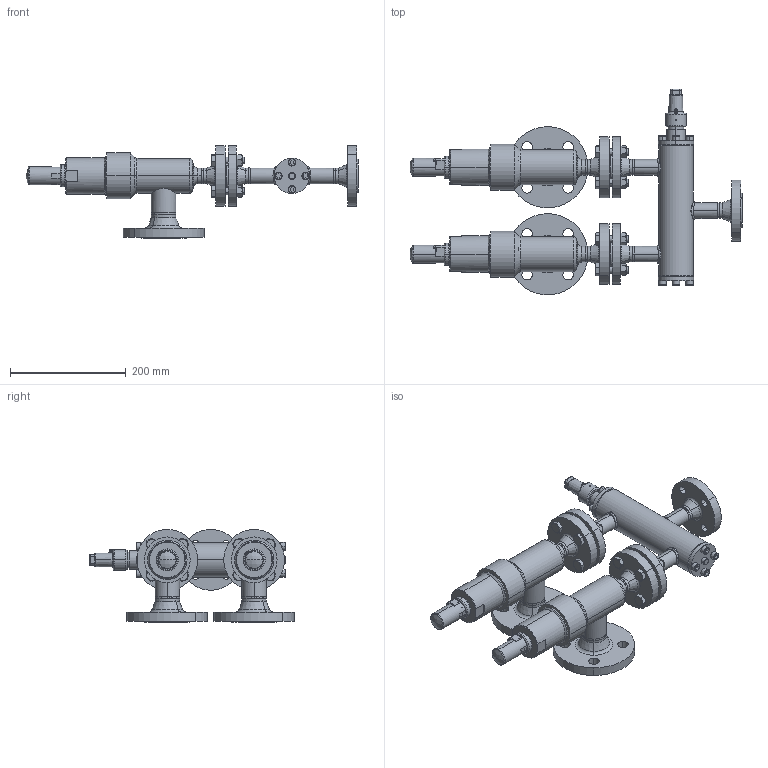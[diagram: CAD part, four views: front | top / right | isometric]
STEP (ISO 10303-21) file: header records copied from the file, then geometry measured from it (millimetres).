
FILE_DESCRIPTION (( 'STEP AP214' ), '1' );
FILE_NAME ('WVB-SVAA_1A5FL_DN20_DIN-FL_seitlich.STEP', '2010-09-09T08:12:36', ( 'Eckhard Grams' ), ( 'AWP Kälte Klima Armaturen GmbH' ), 'SwSTEP 2.0', 'SolidWorks 2002296', '' );
FILE_SCHEMA (( 'AUTOMOTIVE_DESIGN' ));
Length unit declared in the file: millimetre
Products named in the file (31): WVB-SVAA_1A5FL_DN20_DIN-FL_seitlich; WVB23020D11-DN020_DIN-FL-N-F_PS40_Standard; Geh,kpl24020E11-DN20_DIN-FL-N-F_PS40_Standard; Flansch-DIN2635-Feder_PS40_DIN-Flansch-DN020_PS40-Feder; Geh,kpl24000E11_DN20_R1_PS40_Standard; Gehäuse24000E11-DN20_R1_PS40_Standard; Rohrstutzen-24000E11-DN20_R1_Standard; Schw-24000E11-DN20_Standard; bead24020-11-3_Standard; bead24020-11-2_Standard; bead24020-11-1_Standard; Kappe 96300E10_DN6-20 (M27x2)_Standard; WVB-R23000K10_Deck+Schr-DN10-20_Standard; Deckel24000E10-DN10-20_Standard; Zylinderschraube-DIN912_M 8x  25; AVB16300K10_Deck+Schr-DN10-20_Standard; Deckel16300K10-DN10-20_Standard; Zylinderschraube-DIN912_M 8x  16; SVAA 45620D11-DN20(32)_DIN; Gehkpl 45720E11-5030001; bead Geh,kpl 45720E11-2_Standard; bead Geh,kpl 45720E11-1_Standard; Flansch-DIN2635-Nut_PS40_DIN-Flansch-DN032_PS40-Nut; Rohrstutzen-A 45700E11-5036004_DN20(32)_Standard; Geh 45700E11-5034004_DN20; Flansch-DIN2635-Nut_PS40_DIN-Flansch-DN020_PS40-Nut; Haube 45700E11-5260003_DN20-25; Kappe SVA-SVU-ORV_DN10-40 (M27x1,5)_Standard; Flachdichtg-Alu-DN20-25; Sechskantschraube-DIN933_M12x 50; Sechskantmutter-DIN934_M12
Assembly tree (57 placements, depth 5):
  WVB-SVAA_1A5FL_DN20_DIN-FL_seitlich
    Sechskantschraube-DIN933_M12x 50  x8
    SVAA 45620D11-DN20(32)_DIN  x2
      Gehkpl 45720E11-5030001
        Geh 45700E11-5034004_DN20
        Flansch-DIN2635-Nut_PS40_DIN-Flansch-DN020_PS40-Nut
        Rohrstutzen-A 45700E11-5036004_DN20(32)_Standard
        bead Geh,kpl 45720E11-2_Standard
        bead Geh,kpl 45720E11-1_Standard
        Flansch-DIN2635-Nut_PS40_DIN-Flansch-DN032_PS40-Nut
      Kappe SVA-SVU-ORV_DN10-40 (M27x1,5)_Standard
      Haube 45700E11-5260003_DN20-25
      Flachdichtg-Alu-DN20-25
    WVB23020D11-DN020_DIN-FL-N-F_PS40_Standard
      WVB-R23000K10_Deck+Schr-DN10-20_Standard
        Zylinderschraube-DIN912_M 8x  25  x4
        Deckel24000E10-DN10-20_Standard
      AVB16300K10_Deck+Schr-DN10-20_Standard
        Deckel16300K10-DN10-20_Standard
        Zylinderschraube-DIN912_M 8x  16  x4
      Geh,kpl24020E11-DN20_DIN-FL-N-F_PS40_Standard
        Flansch-DIN2635-Feder_PS40_DIN-Flansch-DN020_PS40-Feder  x2
        Flansch-DIN2635-Nut_PS40_DIN-Flansch-DN020_PS40-Nut
        bead24020-11-2_Standard
        bead24020-11-1_Standard
        bead24020-11-3_Standard
        Geh,kpl24000E11_DN20_R1_PS40_Standard
          Rohrstutzen-24000E11-DN20_R1_Standard  x3
          Schw-24000E11-DN20_Standard  x3
          Gehäuse24000E11-DN20_R1_PS40_Standard
      Kappe 96300E10_DN6-20 (M27x2)_Standard
    Sechskantmutter-DIN934_M12  x8
Bounding box: 573 x 354.23 x 160.3 mm (x, y, z)
Volume: 2536900 mm3; surface area: 678602.3 mm2
Topology: 58 solids, 58 shells, 1359 faces, 3167 edges, 1975 vertices
Faces by surface type: cylinder 502, plane 379, cone 317, torus 99, bspline 54, sphere 8
Entity records: 42750 total; most frequent: CARTESIAN_POINT 26129, DIRECTION 3049, ORIENTED_EDGE 2862, EDGE_CURVE 1431, AXIS2_PLACEMENT_3D 1293, VERTEX_POINT 894, EDGE_LOOP 719, CIRCLE 654
